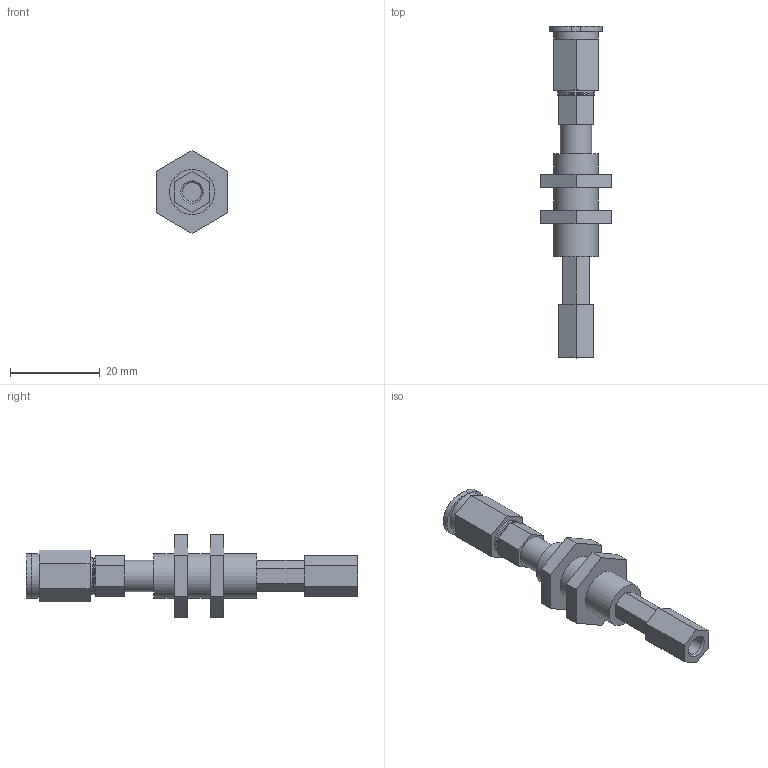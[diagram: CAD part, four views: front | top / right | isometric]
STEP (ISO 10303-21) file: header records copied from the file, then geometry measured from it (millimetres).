
FILE_DESCRIPTION( ( 'STEP AP214' ), '1' );
FILE_NAME( 'D:/Backup/桌面/CM-S04.stp', '2024-10-10T06:05:26', ( 'License CC BY-ND 4.0' ), ( 'CADENAS' ), ' ', 'PARTsolutions', ' ' );
FILE_SCHEMA( ( 'AUTOMOTIVE_DESIGN { 1 0 10303 214 1 1 1 1 }' ) );
Length unit declared in the file: millimetre
Products named in the file (1): _CM-S04
Bounding box: 16 x 73.9 x 18.48 mm (x, y, z)
Volume: 4411.2 mm3; surface area: 4141.1 mm2
Topology: 1 solids, 1 shells, 85 faces, 190 edges, 121 vertices
Faces by surface type: plane 68, cylinder 13, cone 4
Full cylindrical faces by diameter (mm): 3.6 x1, 4 x1, 4.134 x1, 6 x1, 7 x1, 8.17 x2, 9.8 x1, 10 x3
Entity records: 2914 total; most frequent: DIRECTION 384, CARTESIAN_POINT 374, ORIENTED_EDGE 342, EDGE_CURVE 171, LINE 130, VECTOR 130, AXIS2_PLACEMENT_3D 127, VERTEX_POINT 117
